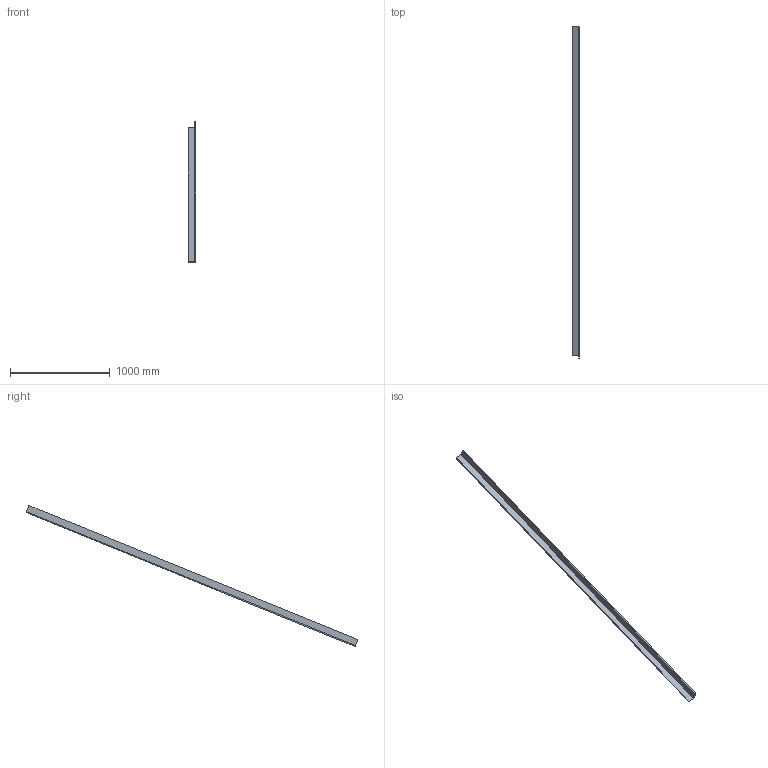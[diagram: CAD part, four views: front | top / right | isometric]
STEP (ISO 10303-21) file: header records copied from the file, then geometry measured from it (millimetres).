
FILE_DESCRIPTION(('Open CASCADE Model'),'2;1');
FILE_NAME('Open CASCADE Shape Model','2026-09-19T12:55:21',('Author'),( 'Open CASCADE'),'Open CASCADE STEP processor 7.9','Open CASCADE 7.9' ,'Unknown');
FILE_SCHEMA(('AUTOMOTIVE_DESIGN { 1 0 10303 214 1 1 1 1 }'));
Length unit declared in the file: millimetre
Products named in the file (1): Open CASCADE STEP translator 7.9 334
Bounding box: 76.2 x 3320.73 x 1410.58 mm (x, y, z)
Volume: 4836956 mm3; surface area: 1086064.5 mm2
Topology: 1 solids, 1 shells, 8 faces, 18 edges, 12 vertices
Faces by surface type: plane 8
Entity records: 466 total; most frequent: CARTESIAN_POINT 75, DIRECTION 72, LINE 54, VECTOR 54, ORIENTED_EDGE 36, PCURVE 36, DEFINITIONAL_REPRESENTATION 36, EDGE_CURVE 18
